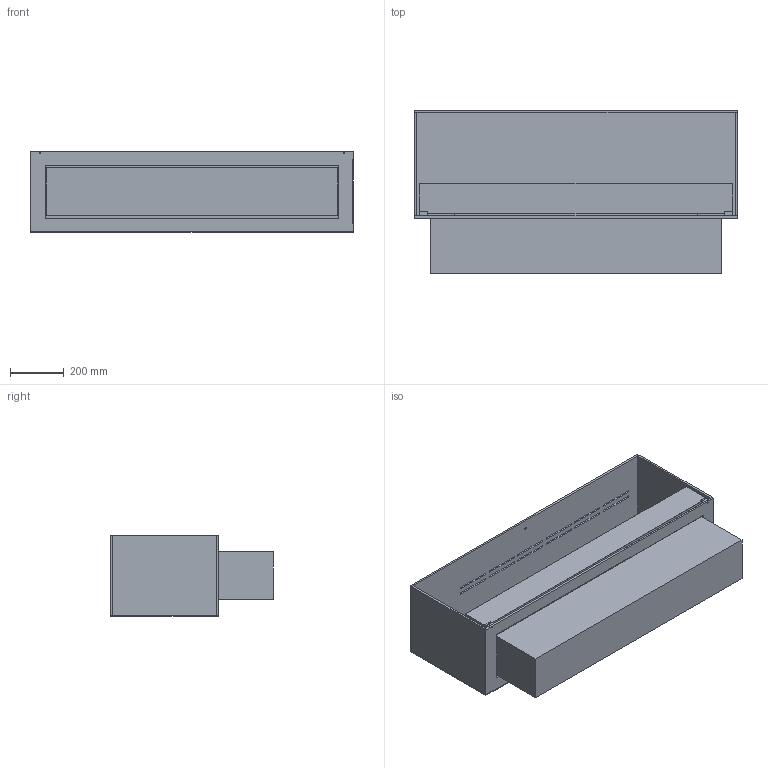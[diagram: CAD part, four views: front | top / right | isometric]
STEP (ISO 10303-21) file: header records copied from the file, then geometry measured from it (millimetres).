
FILE_DESCRIPTION (( 'STEP AP203' ), '1' );
FILE_NAME ('Montreal open front 1200 Hybird Mist.STEP', '2024-03-13T10:44:39', ( '' ), ( '' ), 'SwSTEP 2.0', 'SolidWorks 2023', '' );
FILE_SCHEMA (( 'CONFIG_CONTROL_DESIGN' ));
Length unit declared in the file: millimetre
Products named in the file (9): Part3^P&G -1120SI Montreal Single AUTOShowroom -look book; 8mm alu Top - P&G -1120SIShowroom -look book; Glas holder flad med sider 10mm; 8mm alu Side - P&G -1120SIShowroom -look book_Glass; Montreal open front 1200 Hybird Mist; 3mm alu Bag - P&G -1120SIShowroom -look book; Part1^P&G -1120SI Montreal Single AUTOShowroom -look book; Denver F6_uden glass; 8mm alu Bund - P&G -1120SIShowroom -look book
Assembly tree (9 placements, depth 2):
  Part3^P&G -1120SI Montreal Single AUTOShowroom -look book
  Montreal open front 1200 Hybird Mist
    8mm alu Top - P&G -1120SIShowroom -look book
    8mm alu Bund - P&G -1120SIShowroom -look book
    8mm alu Side - P&G -1120SIShowroom -look book_Glass  x2
    3mm alu Bag - P&G -1120SIShowroom -look book
    Glas holder flad med sider 10mm  x2
    Part1^P&G -1120SI Montreal Single AUTOShowroom -look book
    Denver F6_uden glass
Bounding box: 1200 x 605 x 300 mm (x, y, z)
Volume: 50643183 mm3; surface area: 4317758.9 mm2
Topology: 13 solids, 13 shells, 265 faces, 708 edges, 472 vertices
Faces by surface type: plane 181, cylinder 84
Entity records: 8650 total; most frequent: CARTESIAN_POINT 1344, DIRECTION 1318, ORIENTED_EDGE 1308, EDGE_CURVE 654, VECTOR 498, LINE 498, VERTEX_POINT 436, AXIS2_PLACEMENT_3D 410
